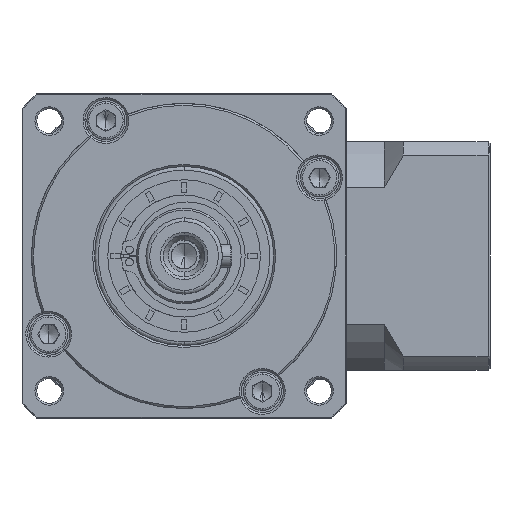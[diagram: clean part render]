
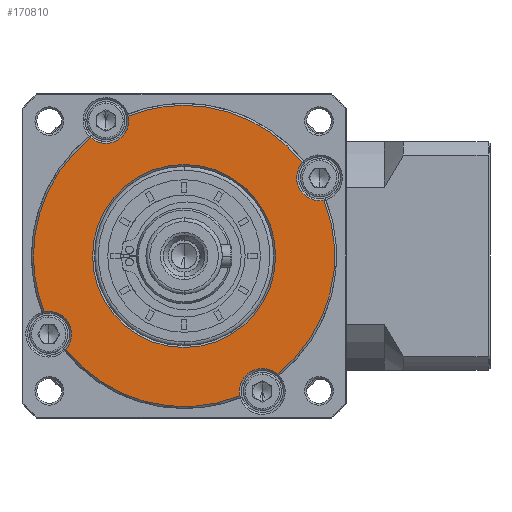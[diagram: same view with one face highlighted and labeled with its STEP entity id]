
A CAD part, left-side view. The second image highlights one B-rep face of the part: STEP entity #170810.
In plain terms, the highlighted planar face has unit normal (-1, 0, 0).
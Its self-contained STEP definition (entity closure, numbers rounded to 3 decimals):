
#376 = CIRCLE ( 'NONE', #103760, 24. ) ;
#1238 = CARTESIAN_POINT ( 'NONE',  ( -250.696, 70.3, 43.372 ) ) ;
#1666 = FACE_BOUND ( 'NONE', #139647, .T. ) ;
#4373 = CARTESIAN_POINT ( 'NONE',  ( -250.696, 25.8, 7.865 ) ) ;
#5256 = DIRECTION ( 'NONE',  ( 1., 0., 0. ) ) ;
#5967 = CIRCLE ( 'NONE', #133507, 39.5 ) ;
#9156 = CARTESIAN_POINT ( 'NONE',  ( -250.696, 49.8, 7.865 ) ) ;
#9370 = DIRECTION ( 'NONE',  ( 1., 0., 0. ) ) ;
#10725 = DIRECTION ( 'NONE',  ( 0., 0., 1. ) ) ;
#11015 = DIRECTION ( 'NONE',  ( 1., 0., 0. ) ) ;
#15454 = VERTEX_POINT ( 'NONE', #84138 ) ;
#16486 = DIRECTION ( 'NONE',  ( 0., 0., -1. ) ) ;
#18625 = EDGE_CURVE ( 'NONE', #15454, #67058, #28464, .T. ) ;
#20785 = CARTESIAN_POINT ( 'NONE',  ( -250.696, 89.3, 7.865 ) ) ;
#24125 = DIRECTION ( 'NONE',  ( 1., 0., 0. ) ) ;
#24403 = DIRECTION ( 'NONE',  ( 0., 0., -1. ) ) ;
#24429 = DIRECTION ( 'NONE',  ( 1., 0., 0. ) ) ;
#24691 = CIRCLE ( 'NONE', #35452, 39.5 ) ;
#25499 = AXIS2_PLACEMENT_3D ( 'NONE', #100440, #9370, #115742 ) ;
#28047 = ORIENTED_EDGE ( 'NONE', *, *, #147753, .T. ) ;
#28464 = CIRCLE ( 'NONE', #162152, 6. ) ;
#30780 = EDGE_CURVE ( 'NONE', #72093, #165841, #104702, .T. ) ;
#30942 = CIRCLE ( 'NONE', #112833, 6. ) ;
#33383 = CIRCLE ( 'NONE', #162320, 6. ) ;
#35452 = AXIS2_PLACEMENT_3D ( 'NONE', #96341, #5256, #111606 ) ;
#35698 = CARTESIAN_POINT ( 'NONE',  ( -250.696, 70.3, 43.372 ) ) ;
#39101 = ORIENTED_EDGE ( 'NONE', *, *, #197512, .F. ) ;
#39889 = EDGE_CURVE ( 'NONE', #88834, #175747, #59891, .T. ) ;
#42386 = EDGE_CURVE ( 'NONE', #163316, #175747, #5967, .T. ) ;
#42911 = ORIENTED_EDGE ( 'NONE', *, *, #39889, .T. ) ;
#44175 = CARTESIAN_POINT ( 'NONE',  ( -250.696, 70.3, 37.372 ) ) ;
#45893 = VERTEX_POINT ( 'NONE', #192991 ) ;
#46824 = EDGE_CURVE ( 'NONE', #15454, #106339, #86899, .T. ) ;
#50423 = VERTEX_POINT ( 'NONE', #123013 ) ;
#50979 = DIRECTION ( 'NONE',  ( 1., 0., 0. ) ) ;
#51004 = DIRECTION ( 'NONE',  ( 0., 0., -1. ) ) ;
#58077 = ORIENTED_EDGE ( 'NONE', *, *, #165988, .F. ) ;
#59891 = CIRCLE ( 'NONE', #64108, 6. ) ;
#60296 = CARTESIAN_POINT ( 'NONE',  ( -250.696, 49.8, 7.865 ) ) ;
#61902 = DIRECTION ( 'NONE',  ( 1., 0., 0. ) ) ;
#62101 = CIRCLE ( 'NONE', #62546, 6. ) ;
#62546 = AXIS2_PLACEMENT_3D ( 'NONE', #153072, #61902, #168364 ) ;
#64108 = AXIS2_PLACEMENT_3D ( 'NONE', #86129, #192551, #101426 ) ;
#67058 = VERTEX_POINT ( 'NONE', #44175 ) ;
#70025 = DIRECTION ( 'NONE',  ( 1., 0., 0. ) ) ;
#70279 = AXIS2_PLACEMENT_3D ( 'NONE', #142094, #50979, #157411 ) ;
#70302 = EDGE_CURVE ( 'NONE', #163316, #50423, #98623, .T. ) ;
#72093 = VERTEX_POINT ( 'NONE', #151760 ) ;
#72103 = EDGE_LOOP ( 'NONE', ( #72125, #109268, #81640, #153937, #183359, #42911, #188674, #130733, #58077, #78348, #94797, #39101 ) ) ;
#72125 = ORIENTED_EDGE ( 'NONE', *, *, #46824, .F. ) ;
#72447 = AXIS2_PLACEMENT_3D ( 'NONE', #115239, #24125, #130508 ) ;
#73359 = VERTEX_POINT ( 'NONE', #173581 ) ;
#75615 = DIRECTION ( 'NONE',  ( 0., -1., 0. ) ) ;
#78348 = ORIENTED_EDGE ( 'NONE', *, *, #120626, .T. ) ;
#81640 = ORIENTED_EDGE ( 'NONE', *, *, #83588, .T. ) ;
#83588 = EDGE_CURVE ( 'NONE', #67058, #45893, #30942, .T. ) ;
#84138 = CARTESIAN_POINT ( 'NONE',  ( -250.696, 64.419, 44.56 ) ) ;
#84366 = CARTESIAN_POINT ( 'NONE',  ( -250.696, 35.181, -28.83 ) ) ;
#86129 = CARTESIAN_POINT ( 'NONE',  ( -250.696, 85.307, -12.635 ) ) ;
#86899 = CIRCLE ( 'NONE', #94777, 39.5 ) ;
#88834 = VERTEX_POINT ( 'NONE', #113709 ) ;
#89456 = CARTESIAN_POINT ( 'NONE',  ( -250.696, 49.8, 7.865 ) ) ;
#94777 = AXIS2_PLACEMENT_3D ( 'NONE', #192971, #101800, #10725 ) ;
#94797 = ORIENTED_EDGE ( 'NONE', *, *, #172851, .T. ) ;
#96341 = CARTESIAN_POINT ( 'NONE',  ( -250.696, 49.8, 7.865 ) ) ;
#98623 = CIRCLE ( 'NONE', #150272, 6. ) ;
#100271 = VERTEX_POINT ( 'NONE', #164385 ) ;
#100440 = CARTESIAN_POINT ( 'NONE',  ( -250.696, 49.8, 7.865 ) ) ;
#101426 = DIRECTION ( 'NONE',  ( 0., 0., -1. ) ) ;
#101800 = DIRECTION ( 'NONE',  ( 1., 0., 0. ) ) ;
#102107 = CARTESIAN_POINT ( 'NONE',  ( -250.696, 14.293, 28.365 ) ) ;
#103760 = AXIS2_PLACEMENT_3D ( 'NONE', #60296, #166783, #75615 ) ;
#104702 = CIRCLE ( 'NONE', #164566, 24. ) ;
#104734 = DIRECTION ( 'NONE',  ( 0., 0., 1. ) ) ;
#106339 = VERTEX_POINT ( 'NONE', #189189 ) ;
#107594 = DIRECTION ( 'NONE',  ( 1., 0., 0. ) ) ;
#109268 = ORIENTED_EDGE ( 'NONE', *, *, #18625, .T. ) ;
#111606 = DIRECTION ( 'NONE',  ( 0., 0., 1. ) ) ;
#112833 = AXIS2_PLACEMENT_3D ( 'NONE', #1238, #107594, #16486 ) ;
#113709 = CARTESIAN_POINT ( 'NONE',  ( -250.696, 86.495, -6.754 ) ) ;
#115239 = CARTESIAN_POINT ( 'NONE',  ( -250.696, 49.8, 7.865 ) ) ;
#115521 = DIRECTION ( 'NONE',  ( -1., 0., 0. ) ) ;
#115554 = CARTESIAN_POINT ( 'NONE',  ( -250.696, 29.3, -27.642 ) ) ;
#115742 = DIRECTION ( 'NONE',  ( 0., 0., 1. ) ) ;
#117386 = DIRECTION ( 'NONE',  ( 0., 0., -1. ) ) ;
#118618 = EDGE_CURVE ( 'NONE', #88834, #185700, #175965, .T. ) ;
#120626 = EDGE_CURVE ( 'NONE', #73359, #100271, #33383, .T. ) ;
#123013 = CARTESIAN_POINT ( 'NONE',  ( -250.696, 25.33, -23.143 ) ) ;
#123098 = VERTEX_POINT ( 'NONE', #180426 ) ;
#123771 = CIRCLE ( 'NONE', #25499, 39.5 ) ;
#130508 = DIRECTION ( 'NONE',  ( 0., 1., 0. ) ) ;
#130733 = ORIENTED_EDGE ( 'NONE', *, *, #70302, .T. ) ;
#130812 = DIRECTION ( 'NONE',  ( 0., 0., -1. ) ) ;
#133507 = AXIS2_PLACEMENT_3D ( 'NONE', #89456, #195915, #104734 ) ;
#139647 = EDGE_LOOP ( 'NONE', ( #28047, #190854 ) ) ;
#141286 = AXIS2_PLACEMENT_3D ( 'NONE', #9156, #115521, #24403 ) ;
#142094 = CARTESIAN_POINT ( 'NONE',  ( -250.696, 49.8, 7.865 ) ) ;
#142133 = DIRECTION ( 'NONE',  ( 1., 0., 0. ) ) ;
#145455 = PLANE ( 'NONE',  #141286 ) ;
#147753 = EDGE_CURVE ( 'NONE', #165841, #72093, #376, .T. ) ;
#150272 = AXIS2_PLACEMENT_3D ( 'NONE', #115554, #24429, #130812 ) ;
#151760 = CARTESIAN_POINT ( 'NONE',  ( -250.696, 73.8, 7.865 ) ) ;
#153072 = CARTESIAN_POINT ( 'NONE',  ( -250.696, 14.293, 28.365 ) ) ;
#153937 = ORIENTED_EDGE ( 'NONE', *, *, #190697, .F. ) ;
#157411 = DIRECTION ( 'NONE',  ( 0., 1., 0. ) ) ;
#161148 = CARTESIAN_POINT ( 'NONE',  ( -250.696, 49.8, 7.865 ) ) ;
#162152 = AXIS2_PLACEMENT_3D ( 'NONE', #35698, #142133, #51004 ) ;
#162320 = AXIS2_PLACEMENT_3D ( 'NONE', #102107, #11015, #117386 ) ;
#163316 = VERTEX_POINT ( 'NONE', #84366 ) ;
#163469 = FACE_OUTER_BOUND ( 'NONE', #72103, .T. ) ;
#164385 = CARTESIAN_POINT ( 'NONE',  ( -250.696, 14.293, 22.365 ) ) ;
#164566 = AXIS2_PLACEMENT_3D ( 'NONE', #161148, #70025, #176444 ) ;
#165841 = VERTEX_POINT ( 'NONE', #4373 ) ;
#165988 = EDGE_CURVE ( 'NONE', #73359, #50423, #123771, .T. ) ;
#166783 = DIRECTION ( 'NONE',  ( 1., 0., 0. ) ) ;
#168364 = DIRECTION ( 'NONE',  ( 0., 0., -1. ) ) ;
#169596 = CIRCLE ( 'NONE', #72447, 39.5 ) ;
#170810 = ADVANCED_FACE ( 'NONE', ( #163469, #1666 ), #145455, .T. ) ;
#172851 = EDGE_CURVE ( 'NONE', #100271, #123098, #62101, .T. ) ;
#173581 = CARTESIAN_POINT ( 'NONE',  ( -250.696, 13.105, 22.484 ) ) ;
#175747 = VERTEX_POINT ( 'NONE', #193395 ) ;
#175965 = CIRCLE ( 'NONE', #70279, 39.5 ) ;
#176444 = DIRECTION ( 'NONE',  ( 0., -1., 0. ) ) ;
#180426 = CARTESIAN_POINT ( 'NONE',  ( -250.696, 18.792, 32.334 ) ) ;
#183359 = ORIENTED_EDGE ( 'NONE', *, *, #118618, .F. ) ;
#185700 = VERTEX_POINT ( 'NONE', #20785 ) ;
#188674 = ORIENTED_EDGE ( 'NONE', *, *, #42386, .F. ) ;
#189189 = CARTESIAN_POINT ( 'NONE',  ( -250.696, 49.8, 47.365 ) ) ;
#190697 = EDGE_CURVE ( 'NONE', #185700, #45893, #169596, .T. ) ;
#190854 = ORIENTED_EDGE ( 'NONE', *, *, #30780, .T. ) ;
#192551 = DIRECTION ( 'NONE',  ( 1., 0., 0. ) ) ;
#192971 = CARTESIAN_POINT ( 'NONE',  ( -250.696, 49.8, 7.865 ) ) ;
#192991 = CARTESIAN_POINT ( 'NONE',  ( -250.696, 74.27, 38.873 ) ) ;
#193395 = CARTESIAN_POINT ( 'NONE',  ( -250.696, 80.808, -16.605 ) ) ;
#195915 = DIRECTION ( 'NONE',  ( 1., 0., 0. ) ) ;
#197512 = EDGE_CURVE ( 'NONE', #106339, #123098, #24691, .T. ) ;
